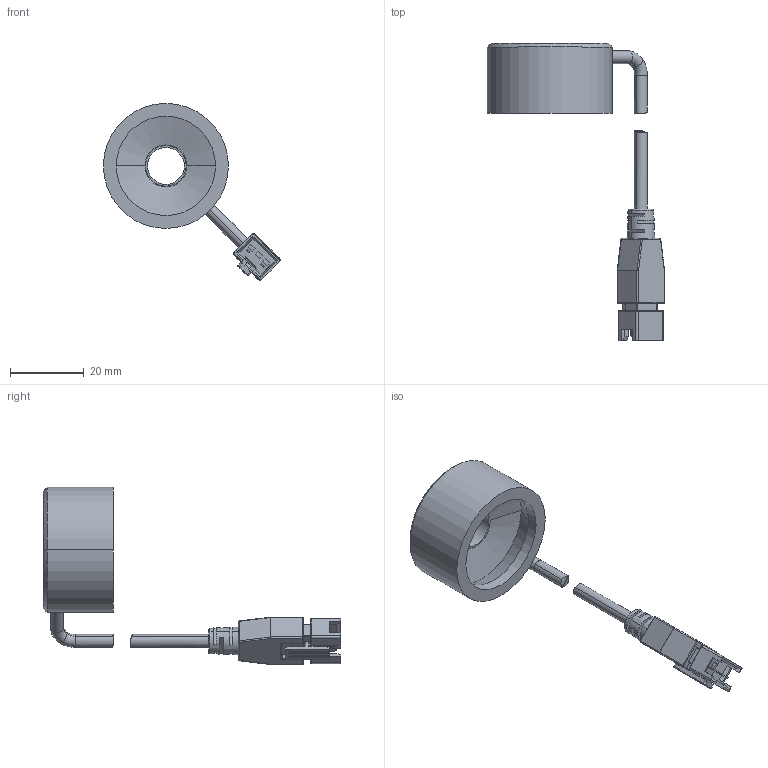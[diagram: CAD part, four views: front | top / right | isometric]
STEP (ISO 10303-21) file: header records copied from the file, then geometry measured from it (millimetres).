
FILE_DESCRIPTION((''),'2;1');
FILE_NAME('P-RL-34-75_ASM','2014-07-10T',('Administrator'),(''),'PRO/ENGINEER BY PARAMETRIC TECHNOLOGY CORPORATION, 2011220','PRO/ENGINEER BY PARAMETRIC TECHNOLOGY CORPORATION, 2011220','');
FILE_SCHEMA(('CONFIG_CONTROL_DESIGN'));
Length unit declared in the file: millimetre
Products named in the file (5): PRT0001; LINE_TOU; BODY_12; XIANLAN-_ASM; P-RL-34-75_ASM
Assembly tree (4 placements, depth 3):
  P-RL-34-75_ASM
    PRT0001
    XIANLAN-_ASM
      LINE_TOU
      BODY_12
Bounding box: 48.2 x 80.8 x 48.2 mm (x, y, z)
Volume: 13198.7 mm3; surface area: 7648 mm2
Topology: 3 solids, 7 shells, 271 faces, 672 edges, 419 vertices
Faces by surface type: plane 136, cylinder 89, cone 18, torus 12, bspline 8, sphere 8
Entity records: 8287 total; most frequent: CARTESIAN_POINT 1674, DIRECTION 1408, ORIENTED_EDGE 1312, EDGE_CURVE 664, AXIS2_PLACEMENT_3D 502, VERTEX_POINT 419, VECTOR 404, LINE 404
